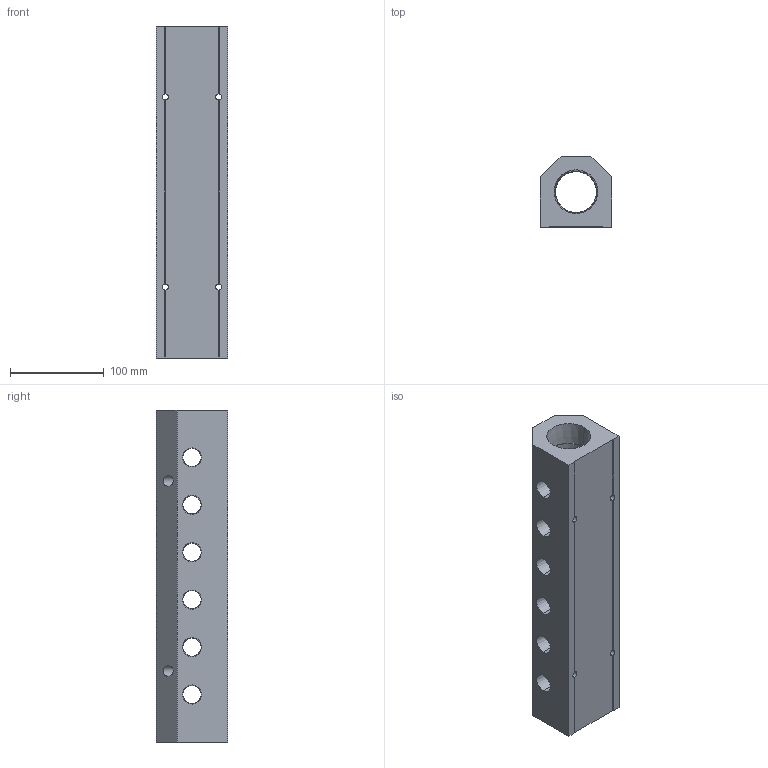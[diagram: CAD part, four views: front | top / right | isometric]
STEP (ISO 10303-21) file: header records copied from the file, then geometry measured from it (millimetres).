
FILE_DESCRIPTION (( 'STEP AP214' ), '1' );
FILE_NAME ('ALM6ACE-N8N24-355R.step', '2022-02-07T09:23:26', ( '' ), ( '' ), 'SwSTEP 2.0', 'SolidWorks 2020', '' );
FILE_SCHEMA (( 'AUTOMOTIVE_DESIGN' ));
Length unit declared in the file: millimetre
Products named in the file (1): ALM6ACE-N8N24-355R
Bounding box: 76.2 x 76.2 x 355 mm (x, y, z)
Volume: 1226227.3 mm3; surface area: 169233 mm2
Topology: 1 solids, 1 shells, 350 faces, 949 edges, 622 vertices
Faces by surface type: plane 214, bspline 78, cone 40, cylinder 18
Entity records: 20599 total; most frequent: CARTESIAN_POINT 8930, ORIENTED_EDGE 1898, DIRECTION 1359, EDGE_CURVE 949, LINE 669, VECTOR 669, VERTEX_POINT 622, EDGE_LOOP 417
